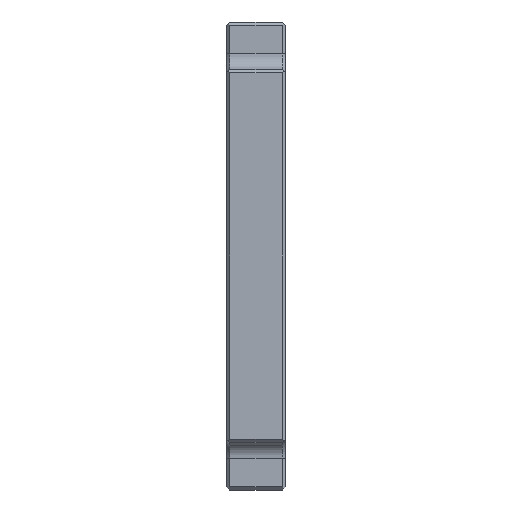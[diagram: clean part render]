
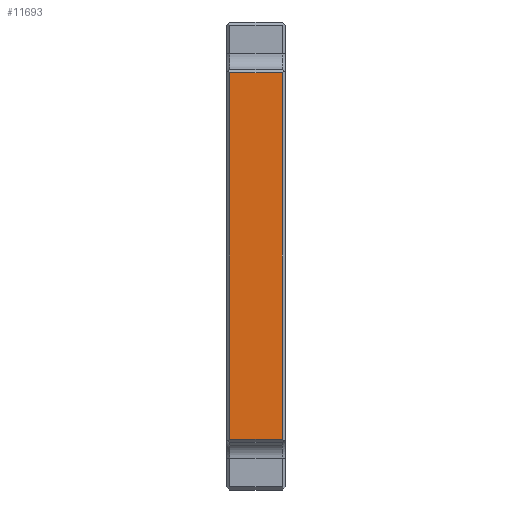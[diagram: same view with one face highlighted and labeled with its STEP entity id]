
A CAD part, left-side view. The second image highlights one B-rep face of the part: STEP entity #11693.
In plain terms, the highlighted planar face has unit normal (-1, 0, 0).
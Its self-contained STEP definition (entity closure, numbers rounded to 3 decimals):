
#546=DIRECTION('',(0.,0.,1.));
#547=VECTOR('',#546,59.706);
#548=CARTESIAN_POINT('',(-132.133,-3.708,
-12.275));
#549=LINE('',#548,#547);
#562=DIRECTION('',(0.,-1.,0.));
#563=VECTOR('',#562,8.525);
#564=CARTESIAN_POINT('',(-132.133,4.817,47.431));
#565=LINE('',#564,#563);
#636=DIRECTION('',(0.,0.,-1.));
#637=VECTOR('',#636,59.706);
#638=CARTESIAN_POINT('',(-132.133,4.817,47.431));
#639=LINE('',#638,#637);
#648=DIRECTION('',(0.,-1.,0.));
#649=VECTOR('',#648,8.525);
#650=CARTESIAN_POINT('',(-132.133,4.817,-12.275));
#651=LINE('',#650,#649);
#10942=CARTESIAN_POINT('',(-132.133,-3.708,
47.431));
#10943=VERTEX_POINT('',#10942);
#10944=CARTESIAN_POINT('',(-132.133,4.817,
47.431));
#10945=VERTEX_POINT('',#10944);
#10948=CARTESIAN_POINT('',(-132.133,-3.708,
-12.275));
#10949=VERTEX_POINT('',#10948);
#10950=CARTESIAN_POINT('',(-132.133,4.817,
-12.275));
#10951=VERTEX_POINT('',#10950);
#11679=CARTESIAN_POINT('',(-132.133,5.317,
47.931));
#11680=DIRECTION('',(1.,0.,0.));
#11681=DIRECTION('',(0.,0.,-1.));
#11682=AXIS2_PLACEMENT_3D('',#11679,#11680,#11681);
#11683=PLANE('',#11682);
#11685=ORIENTED_EDGE('',*,*,#11684,.T.);
#11686=ORIENTED_EDGE('',*,*,#11666,.F.);
#11688=ORIENTED_EDGE('',*,*,#11687,.F.);
#11690=ORIENTED_EDGE('',*,*,#11689,.F.);
#11691=EDGE_LOOP('',(#11685,#11686,#11688,#11690));
#11692=FACE_OUTER_BOUND('',#11691,.F.);
#11693=ADVANCED_FACE('',(#11692),#11683,.F.);
#11666=EDGE_CURVE('',#10949,#10943,#549,.T.);
#11684=EDGE_CURVE('',#10945,#10943,#565,.T.);
#11687=EDGE_CURVE('',#10951,#10949,#651,.T.);
#11689=EDGE_CURVE('',#10945,#10951,#639,.T.);
